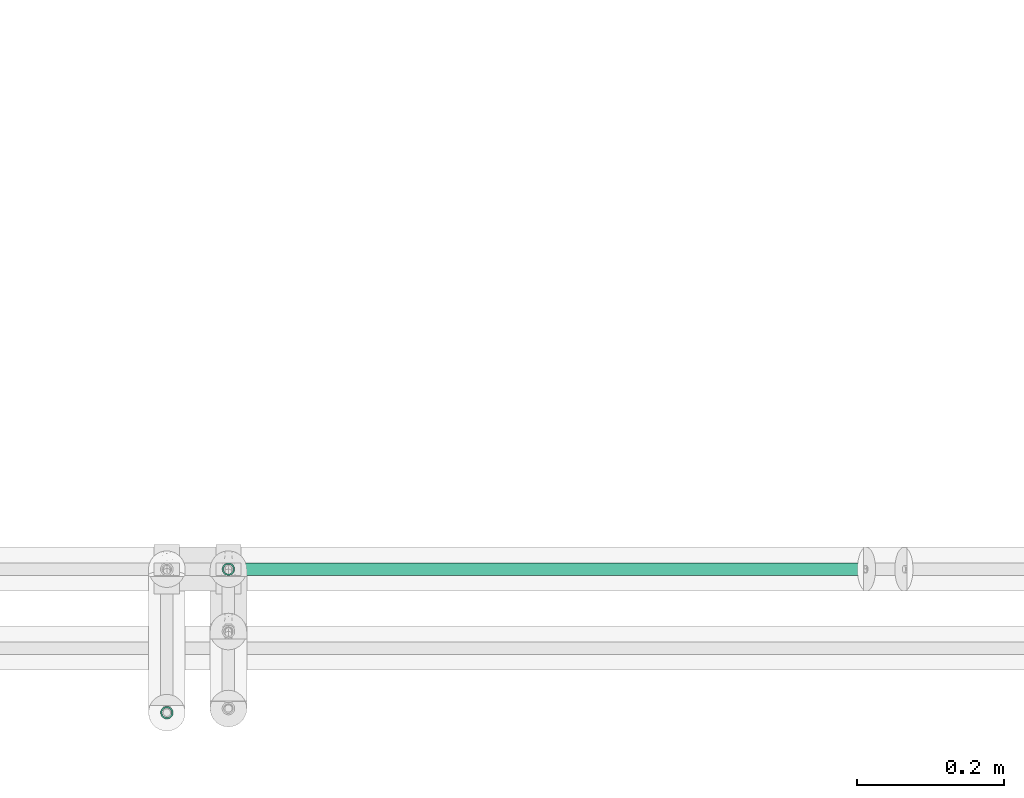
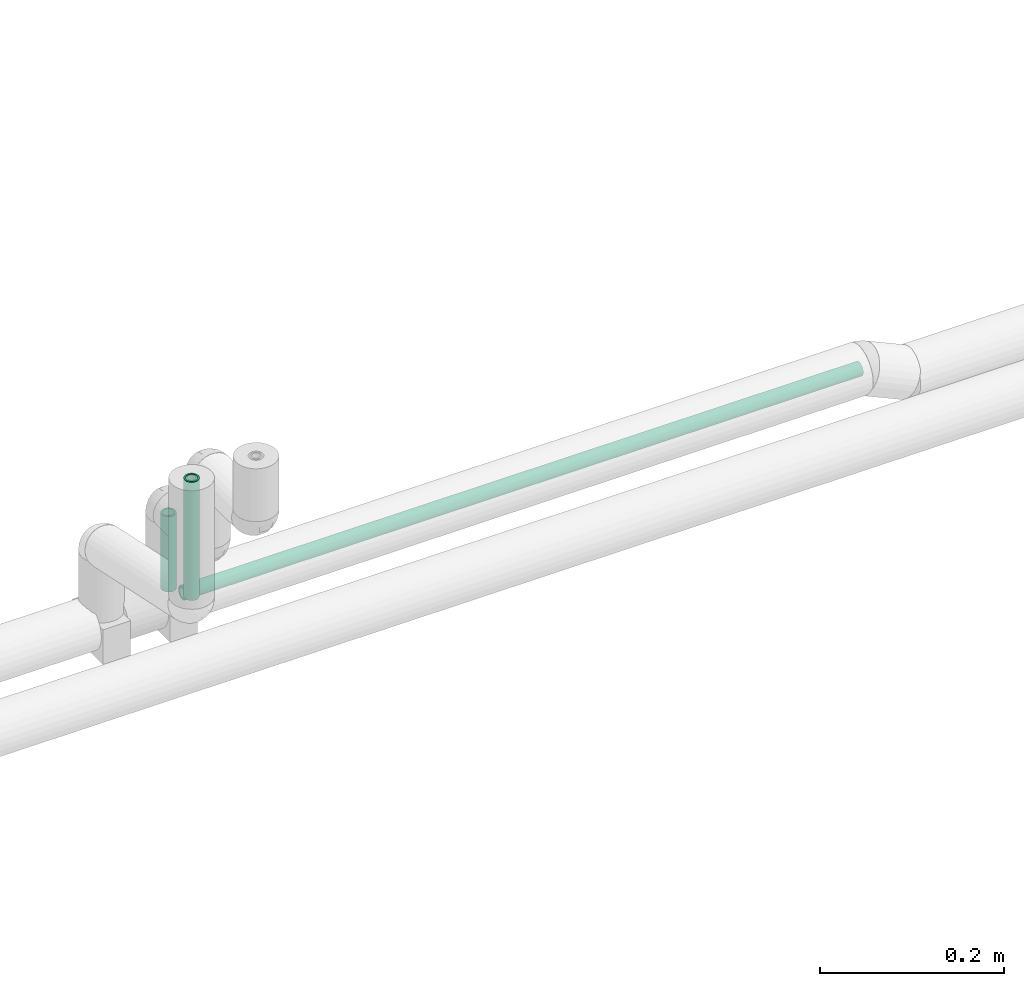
# One storey, part 70 of 156: 3 flow segments.
"""IFC2X3 building model written with IfcOpenShell, lengths in millimetres."""

from ifc_helpers import new_model, entity, si_unit, converted_unit, derived_unit, direction, frame, origin_with_axes, origin_2d_with_axis, place, context, subcontext, project, spatial, hollow_circle, extrude, source, transform, mapped, type_object, element, save


model = new_model("IFC2X3")

# Units and contexts
model_context = context("Model", 3, precision=0.01, world=frame((0.0, 4.29681676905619e-09, 0.0)), true_north=direction((4.01073788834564e-13, 1.0)))
plan_context = context("Plan", 3, precision=0.01, world=frame((0.0, 4.29681676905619e-09, 0.0)), true_north=direction((4.01073788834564e-13, 1.0)))
body_context = subcontext(model_context, "Body", "Model", "MODEL_VIEW")
ifc_project = project(units=[converted_unit("PLANEANGLEUNIT", "DEGREE", entity("IfcPositiveLengthMeasure", 0.0174532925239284), si_unit("PLANEANGLEUNIT", "RADIAN"), dimensions=[0, 0, 0, 0, 0, 0, 0]), si_unit("AREAUNIT", "SQUARE_METRE"), si_unit("LENGTHUNIT", "METRE", prefix="MILLI"), si_unit("MASSUNIT", "GRAM", prefix="KILO"), si_unit("POWERUNIT", "WATT"), si_unit("PRESSUREUNIT", "PASCAL", prefix="KILO"), si_unit("FORCEUNIT", "NEWTON", prefix="KILO"), si_unit("ELECTRICVOLTAGEUNIT", "VOLT"), si_unit("ELECTRICCURRENTUNIT", "AMPERE"), si_unit("THERMODYNAMICTEMPERATUREUNIT", "DEGREE_CELSIUS"), si_unit("TIMEUNIT", "SECOND"), si_unit("VOLUMEUNIT", "CUBIC_METRE"), derived_unit("LINEARVELOCITYUNIT", [(si_unit("LENGTHUNIT", "METRE"), 1), (si_unit("TIMEUNIT", "SECOND"), -1)]), derived_unit("VOLUMETRICFLOWRATEUNIT", [(si_unit("VOLUMEUNIT", "CUBIC_METRE"), 1), (si_unit("TIMEUNIT", "SECOND"), -1)]), derived_unit("THERMALTRANSMITTANCEUNIT", [(si_unit("POWERUNIT", "WATT"), 1), (si_unit("THERMODYNAMICTEMPERATUREUNIT", "KELVIN"), -1), (si_unit("AREAUNIT", "SQUARE_METRE"), -1)]), derived_unit("SOUNDPRESSUREUNIT", [(si_unit("PRESSUREUNIT", "PASCAL"), 1)])], contexts=[model_context, plan_context])

# Site, building, storey
site_placement = place(None, frame((0.0, -4.29681676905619e-09, 0.0), z_axis=(0.0, 0.0, 1.0), x_axis=(1.0, 0.0, 0.0)))
site = spatial("IfcSite", under=ifc_project, at=site_placement, CompositionType="ELEMENT")
building_placement = place(site_placement, frame((0.0, 4.29681676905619e-09, 0.0), z_axis=(0.0, 0.0, 1.0), x_axis=(1.0, 0.0, 0.0)))
building = spatial("IfcBuilding", under=site, at=building_placement, Name="mc-building", CompositionType="ELEMENT")
storey_placement = place(building_placement, frame((0.0, 0.0, 205200.0), z_axis=(0.0, 0.0, 1.0), x_axis=(1.0, 0.0, 0.0)))
storey = spatial("IfcBuildingStorey", under=building, at=storey_placement, Name="Nivå D + 1,2 m", CompositionType="ELEMENT", Elevation=205200.0)

# Flow segments
pipe_segment_type = type_object("IfcPipeSegmentType", Name="Stålrør normaltykke", PredefinedType="RIGIDSEGMENT")
shared_shape_1 = source(origin_with_axes(), body_context, "Body", "SweptSolid", [
    extrude(hollow_circle(Radius=8.6, WallThickness=2.0, at=origin_2d_with_axis()), frame((0.0, 0.0, 0.0), z_axis=(1.0, 0.0, 0.0), x_axis=(0.0, 1.0, 0.0)), (0.0, 0.0, 1.0), 848.5),
])
flow_segment_1_placement = place(storey_placement, frame((337026.80356, 459036.28638, 4228.32044000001), z_axis=(0.0, 0.0, 1.0), x_axis=(1.0, 0.0, 0.0)))
element("IfcFlowSegment", 1, at=flow_segment_1_placement, inside=storey, type_object=pipe_segment_type, Name="Stålrør normaltykke", context=body_context, shape_type="MappedRepresentation", body=[
    mapped(shared_shape_1, transform((0.0, 0.0, 0.0), scale=1.0)),
])
shared_shape_2 = source(origin_with_axes(), body_context, "Body", "SweptSolid", [
    extrude(hollow_circle(Radius=8.6, WallThickness=2.0, at=origin_2d_with_axis()), frame((0.0, 0.0, 0.0), z_axis=(1.0, 0.0, 0.0), x_axis=(0.0, 1.0, 0.0)), (0.0, 0.0, 1.0), 156.9),
])
flow_segment_2_placement = place(storey_placement, frame((336925.62218, 458840.65685, 4378.00062000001), z_axis=(-1.0, 0.0, 0.0), x_axis=(0.0, 0.0, 1.0)))
element("IfcFlowSegment", 2, at=flow_segment_2_placement, inside=storey, type_object=pipe_segment_type, Name="Stålrør normaltykke", context=body_context, shape_type="MappedRepresentation", body=[
    mapped(shared_shape_2, transform((0.0, 0.0, 0.0), scale=1.0)),
])
shared_shape_3 = source(origin_with_axes(), body_context, "Body", "SweptSolid", [
    extrude(hollow_circle(Radius=8.6, WallThickness=2.0, at=origin_2d_with_axis()), frame((0.0, 0.0, 0.0), z_axis=(1.0, 0.0, 0.0), x_axis=(0.0, 1.0, 0.0)), (0.0, 0.0, 1.0), 100.0),
])
flow_segment_3_placement = place(storey_placement, frame((337009.60356, 459036.28638, 4241.22044), z_axis=(0.0, 1.0, 0.0), x_axis=(0.0, 0.0, 1.0)))
element("IfcFlowSegment", 3, at=flow_segment_3_placement, inside=storey, type_object=pipe_segment_type, Name="Stålrør normaltykke", context=body_context, shape_type="MappedRepresentation", body=[
    mapped(shared_shape_3, transform((0.0, 0.0, 0.0), scale=1.0, scale2=1.0, scale3=1.0, uniform=False)),
])

save(model, "model.ifc")
